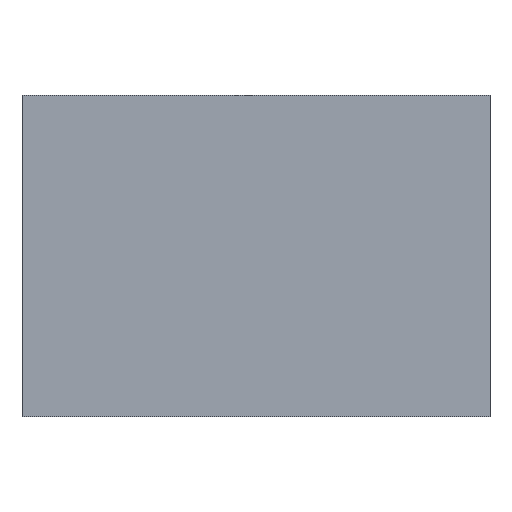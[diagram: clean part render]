
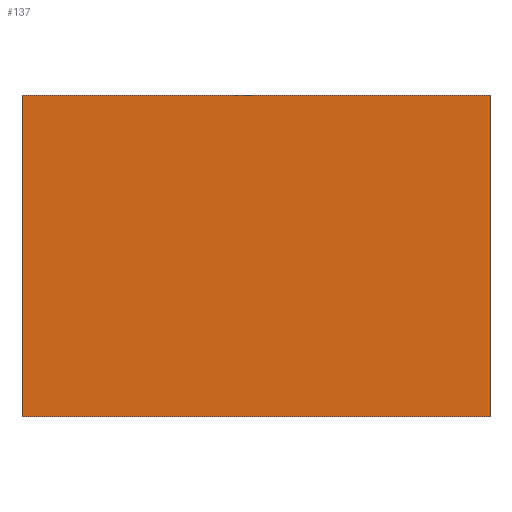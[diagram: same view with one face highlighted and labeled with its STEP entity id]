
A CAD part, left-side view. The second image highlights one B-rep face of the part: STEP entity #137.
In plain terms, the highlighted planar face has unit normal (-1, 0, 0).
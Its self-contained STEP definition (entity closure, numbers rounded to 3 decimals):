
#44 = PLANE('',#45);
#45 = AXIS2_PLACEMENT_3D('',#46,#47,#48);
#46 = CARTESIAN_POINT('',(53.,-16.,-27.));
#47 = DIRECTION('',(-0.,1.,0.));
#48 = DIRECTION('',(0.,0.,-1.));
#72 = PLANE('',#73);
#73 = AXIS2_PLACEMENT_3D('',#74,#75,#76);
#74 = CARTESIAN_POINT('',(53.,-16.,-27.));
#75 = DIRECTION('',(0.,0.,1.));
#76 = DIRECTION('',(1.,0.,0.));
#100 = PLANE('',#101);
#101 = AXIS2_PLACEMENT_3D('',#102,#103,#104);
#102 = CARTESIAN_POINT('',(53.,16.,-27.));
#103 = DIRECTION('',(-0.,1.,0.));
#104 = DIRECTION('',(0.,0.,-1.));
#126 = PLANE('',#127);
#127 = AXIS2_PLACEMENT_3D('',#128,#129,#130);
#128 = CARTESIAN_POINT('',(53.,-16.,-5.));
#129 = DIRECTION('',(0.,0.,1.));
#130 = DIRECTION('',(1.,0.,0.));
#137 = ADVANCED_FACE('',(#138),#152,.T.);
#138 = FACE_BOUND('',#139,.F.);
#139 = EDGE_LOOP('',(#140,#170,#193,#216));
#140 = ORIENTED_EDGE('',*,*,#141,.F.);
#141 = EDGE_CURVE('',#142,#144,#146,.T.);
#142 = VERTEX_POINT('',#143);
#143 = CARTESIAN_POINT('',(49.,-16.,-27.));
#144 = VERTEX_POINT('',#145);
#145 = CARTESIAN_POINT('',(49.,-16.,-5.));
#146 = SURFACE_CURVE('',#147,(#151,#163),.PCURVE_S1.);
#147 = LINE('',#148,#149);
#148 = CARTESIAN_POINT('',(49.,-16.,-27.));
#149 = VECTOR('',#150,1.);
#150 = DIRECTION('',(0.,0.,1.));
#151 = PCURVE('',#152,#157);
#152 = PLANE('',#153);
#153 = AXIS2_PLACEMENT_3D('',#154,#155,#156);
#154 = CARTESIAN_POINT('',(49.,-16.,-27.));
#155 = DIRECTION('',(-1.,-0.,0.));
#156 = DIRECTION('',(0.,0.,-1.));
#157 = DEFINITIONAL_REPRESENTATION('',(#158),#162);
#158 = LINE('',#159,#160);
#159 = CARTESIAN_POINT('',(-0.,-0.));
#160 = VECTOR('',#161,1.);
#161 = DIRECTION('',(-1.,-0.));
#162 = ( GEOMETRIC_REPRESENTATION_CONTEXT(2) 
PARAMETRIC_REPRESENTATION_CONTEXT() REPRESENTATION_CONTEXT('2D SPACE',''
  ) );
#163 = PCURVE('',#44,#164);
#164 = DEFINITIONAL_REPRESENTATION('',(#165),#169);
#165 = LINE('',#166,#167);
#166 = CARTESIAN_POINT('',(-0.,4.));
#167 = VECTOR('',#168,1.);
#168 = DIRECTION('',(-1.,0.));
#169 = ( GEOMETRIC_REPRESENTATION_CONTEXT(2) 
PARAMETRIC_REPRESENTATION_CONTEXT() REPRESENTATION_CONTEXT('2D SPACE',''
  ) );
#170 = ORIENTED_EDGE('',*,*,#171,.T.);
#171 = EDGE_CURVE('',#142,#172,#174,.T.);
#172 = VERTEX_POINT('',#173);
#173 = CARTESIAN_POINT('',(49.,16.,-27.));
#174 = SURFACE_CURVE('',#175,(#179,#186),.PCURVE_S1.);
#175 = LINE('',#176,#177);
#176 = CARTESIAN_POINT('',(49.,-16.,-27.));
#177 = VECTOR('',#178,1.);
#178 = DIRECTION('',(-0.,1.,0.));
#179 = PCURVE('',#152,#180);
#180 = DEFINITIONAL_REPRESENTATION('',(#181),#185);
#181 = LINE('',#182,#183);
#182 = CARTESIAN_POINT('',(-0.,-0.));
#183 = VECTOR('',#184,1.);
#184 = DIRECTION('',(-0.,-1.));
#185 = ( GEOMETRIC_REPRESENTATION_CONTEXT(2) 
PARAMETRIC_REPRESENTATION_CONTEXT() REPRESENTATION_CONTEXT('2D SPACE',''
  ) );
#186 = PCURVE('',#72,#187);
#187 = DEFINITIONAL_REPRESENTATION('',(#188),#192);
#188 = LINE('',#189,#190);
#189 = CARTESIAN_POINT('',(-4.,0.));
#190 = VECTOR('',#191,1.);
#191 = DIRECTION('',(-0.,1.));
#192 = ( GEOMETRIC_REPRESENTATION_CONTEXT(2) 
PARAMETRIC_REPRESENTATION_CONTEXT() REPRESENTATION_CONTEXT('2D SPACE',''
  ) );
#193 = ORIENTED_EDGE('',*,*,#194,.T.);
#194 = EDGE_CURVE('',#172,#195,#197,.T.);
#195 = VERTEX_POINT('',#196);
#196 = CARTESIAN_POINT('',(49.,16.,-5.));
#197 = SURFACE_CURVE('',#198,(#202,#209),.PCURVE_S1.);
#198 = LINE('',#199,#200);
#199 = CARTESIAN_POINT('',(49.,16.,-27.));
#200 = VECTOR('',#201,1.);
#201 = DIRECTION('',(0.,0.,1.));
#202 = PCURVE('',#152,#203);
#203 = DEFINITIONAL_REPRESENTATION('',(#204),#208);
#204 = LINE('',#205,#206);
#205 = CARTESIAN_POINT('',(-0.,-32.));
#206 = VECTOR('',#207,1.);
#207 = DIRECTION('',(-1.,-0.));
#208 = ( GEOMETRIC_REPRESENTATION_CONTEXT(2) 
PARAMETRIC_REPRESENTATION_CONTEXT() REPRESENTATION_CONTEXT('2D SPACE',''
  ) );
#209 = PCURVE('',#100,#210);
#210 = DEFINITIONAL_REPRESENTATION('',(#211),#215);
#211 = LINE('',#212,#213);
#212 = CARTESIAN_POINT('',(-0.,4.));
#213 = VECTOR('',#214,1.);
#214 = DIRECTION('',(-1.,0.));
#215 = ( GEOMETRIC_REPRESENTATION_CONTEXT(2) 
PARAMETRIC_REPRESENTATION_CONTEXT() REPRESENTATION_CONTEXT('2D SPACE',''
  ) );
#216 = ORIENTED_EDGE('',*,*,#217,.F.);
#217 = EDGE_CURVE('',#144,#195,#218,.T.);
#218 = SURFACE_CURVE('',#219,(#223,#230),.PCURVE_S1.);
#219 = LINE('',#220,#221);
#220 = CARTESIAN_POINT('',(49.,-16.,-5.));
#221 = VECTOR('',#222,1.);
#222 = DIRECTION('',(-0.,1.,0.));
#223 = PCURVE('',#152,#224);
#224 = DEFINITIONAL_REPRESENTATION('',(#225),#229);
#225 = LINE('',#226,#227);
#226 = CARTESIAN_POINT('',(-22.,-0.));
#227 = VECTOR('',#228,1.);
#228 = DIRECTION('',(-0.,-1.));
#229 = ( GEOMETRIC_REPRESENTATION_CONTEXT(2) 
PARAMETRIC_REPRESENTATION_CONTEXT() REPRESENTATION_CONTEXT('2D SPACE',''
  ) );
#230 = PCURVE('',#126,#231);
#231 = DEFINITIONAL_REPRESENTATION('',(#232),#236);
#232 = LINE('',#233,#234);
#233 = CARTESIAN_POINT('',(-4.,0.));
#234 = VECTOR('',#235,1.);
#235 = DIRECTION('',(-0.,1.));
#236 = ( GEOMETRIC_REPRESENTATION_CONTEXT(2) 
PARAMETRIC_REPRESENTATION_CONTEXT() REPRESENTATION_CONTEXT('2D SPACE',''
  ) );
